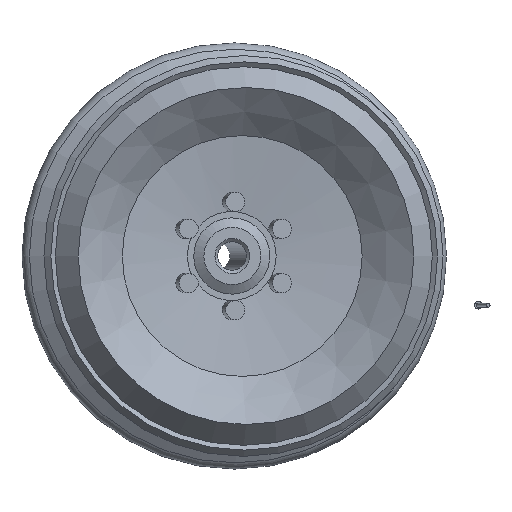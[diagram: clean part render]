
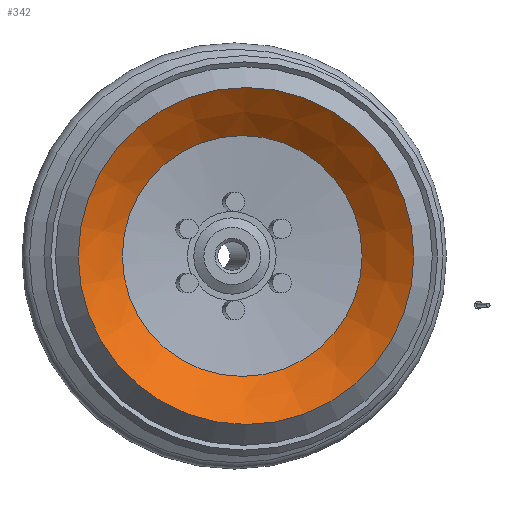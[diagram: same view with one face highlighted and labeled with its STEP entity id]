
A CAD part, front view. The second image highlights one B-rep face of the part: STEP entity #342.
In plain terms, the highlighted conical face has half-angle 49.128 degrees and reference radius 18.929 mm.
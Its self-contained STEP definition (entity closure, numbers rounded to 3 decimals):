
#342=ADVANCED_FACE('',(#651,#652),#653,.F.);
#651=FACE_OUTER_BOUND('',#925,.T.);
#652=FACE_BOUND('',#926,.T.);
#653=CONICAL_SURFACE('',#927,18.929,0.857);
#925=EDGE_LOOP('',(#1411));
#926=EDGE_LOOP('',(#1412));
#927=AXIS2_PLACEMENT_3D('',#1413,#1414,#1415);
#1411=ORIENTED_EDGE('',*,*,#1598,.T.);
#1412=ORIENTED_EDGE('',*,*,#1596,.F.);
#1413=CARTESIAN_POINT('',(0.,-30.583,0.));
#1414=DIRECTION('',(0.,-1.0,0.));
#1415=DIRECTION('',(0.0,0.,-1.0));
#1596=EDGE_CURVE('',#1852,#1852,#1853,.T.);
#1598=EDGE_CURVE('',#1855,#1855,#1856,.T.);
#1852=VERTEX_POINT('',#2602);
#1853=CIRCLE('',#2603,18.929);
#1855=VERTEX_POINT('',#2605);
#1856=CIRCLE('',#2606,26.488);
#2602=CARTESIAN_POINT('',(0.,-30.583,-18.929));
#2603=AXIS2_PLACEMENT_3D('',#2797,#2798,#2799);
#2605=CARTESIAN_POINT('',(0.,-37.124,-26.488));
#2606=AXIS2_PLACEMENT_3D('',#2800,#2801,#2802);
#2797=CARTESIAN_POINT('',(0.,-30.583,0.));
#2798=DIRECTION('',(0.,-1.0,0.));
#2799=DIRECTION('',(0.0,0.,-1.0));
#2800=CARTESIAN_POINT('',(0.,-37.124,0.));
#2801=DIRECTION('',(0.,-1.0,0.));
#2802=DIRECTION('',(0.0,0.,-1.0));
